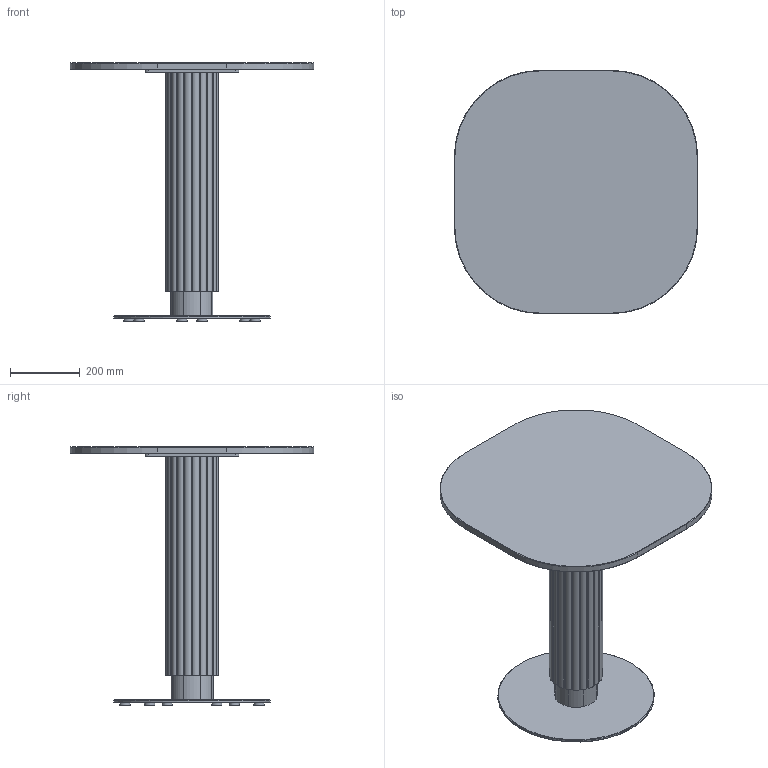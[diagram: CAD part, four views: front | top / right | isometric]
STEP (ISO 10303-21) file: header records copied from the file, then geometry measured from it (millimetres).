
FILE_DESCRIPTION( ('This file contains a STEP AP42 implementation' ,'as created by ZW3D STEP Interface translator.') ,'2;1' );
FILE_NAME( 'God - B_Rond - F2 - M1 - 700 x 700 x 750.stp' ,'24 912.114422', (''), ('ZWCAD Software Co.'), 'Version 1.0', 'ZW3D to STEP translator', '' );
FILE_SCHEMA(('AUTOMOTIVE_DESIGN { 1 0 10303 214 1 1 1 1 }'));
Length unit declared in the file: millimetre
Products named in the file (15): 0; PIED BISTROT PARAMETRIQUE_; SOCLE ACIER C Ø450 V.02_; SCL-D450-02_; PLA-R30A-01_; PLA-R30A-01; CROIX ACIER 370 V.02_; CRX-X370-02_; COLONNE ACIER Ø48.5 V.02_; TUB-D048-02_; PLA-R48A-01_; Colonne GODRON H700_; WUERTH 0276063020 Euro-screw 6.3x2 Verzinkt_; PLATEAU BISTROT PARAMETRIQUE_; insert_m6_13_
Assembly tree (25 placements, depth 3):
  0
  PIED BISTROT PARAMETRIQUE_
    SOCLE ACIER C Ø450 V.02_
      SCL-D450-02_
      PLA-R30A-01_
      PLA-R30A-01  x5
    CROIX ACIER 370 V.02_
      CRX-X370-02_
    COLONNE ACIER Ø48.5 V.02_
      TUB-D048-02_
      PLA-R48A-01_  x2
    Colonne GODRON H700_
    WUERTH 0276063020 Euro-screw 6.3x2 Verzinkt_
    PLATEAU BISTROT PARAMETRIQUE_
      insert_m6_13_  x8
Bounding box: 700 x 700 x 744 mm (x, y, z)
Volume: 21061990 mm3; surface area: 2665536 mm2
Topology: 29 solids, 29 shells, 656 faces, 1625 edges, 1042 vertices
Faces by surface type: plane 294, cylinder 193, bspline 121, cone 47, torus 1
Full cylindrical faces by diameter (mm): 4.88 x1, 6 x8, 6.3 x1, 8 x47, 12 x2, 14 x2, 30 x6, 44.5 x3, 48.5 x1, 450 x1
Entity records: 16234 total; most frequent: CARTESIAN_POINT 4039, DIRECTION 2249, ORIENTED_EDGE 2240, EDGE_CURVE 1120, AXIS2_PLACEMENT_3D 800, VERTEX_POINT 728, VECTOR 649, LINE 649
